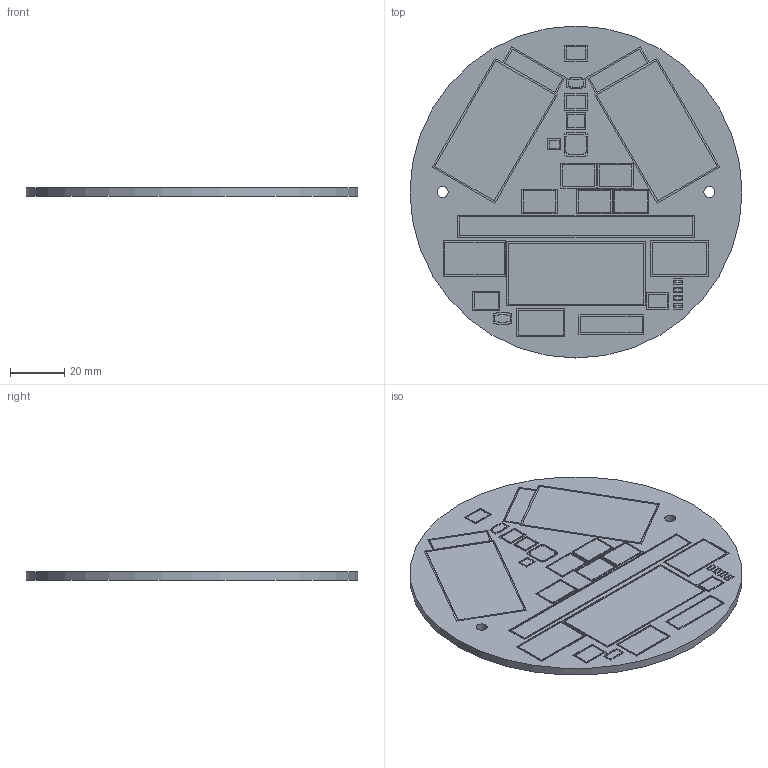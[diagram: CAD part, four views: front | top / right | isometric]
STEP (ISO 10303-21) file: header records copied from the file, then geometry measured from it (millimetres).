
FILE_DESCRIPTION(('Open CASCADE Model'),'2;1');
FILE_NAME('Open CASCADE Shape Model','2026-10-01T15:23:50',('Author'),( 'Open CASCADE'),'Open CASCADE STEP processor 7.9','Open CASCADE 7.9' ,'Unknown');
FILE_SCHEMA(('AUTOMOTIVE_DESIGN { 1 0 10303 214 1 1 1 1 }'));
Length unit declared in the file: millimetre
Products named in the file (1): Open CASCADE STEP translator 7.9 3
Bounding box: 122 x 122 x 3 mm (x, y, z)
Volume: 34653.4 mm3; surface area: 25679.5 mm2
Topology: 1 solids, 1 shells, 363 faces, 921 edges, 614 vertices
Faces by surface type: plane 360, cylinder 3
Full cylindrical faces by diameter (mm): 4 x2, 122 x1
Entity records: 21806 total; most frequent: CARTESIAN_POINT 4663, DIRECTION 2595, LINE 1853, VECTOR 1853, ORIENTED_EDGE 1842, PCURVE 1842, DEFINITIONAL_REPRESENTATION 1842, EDGE_CURVE 921
